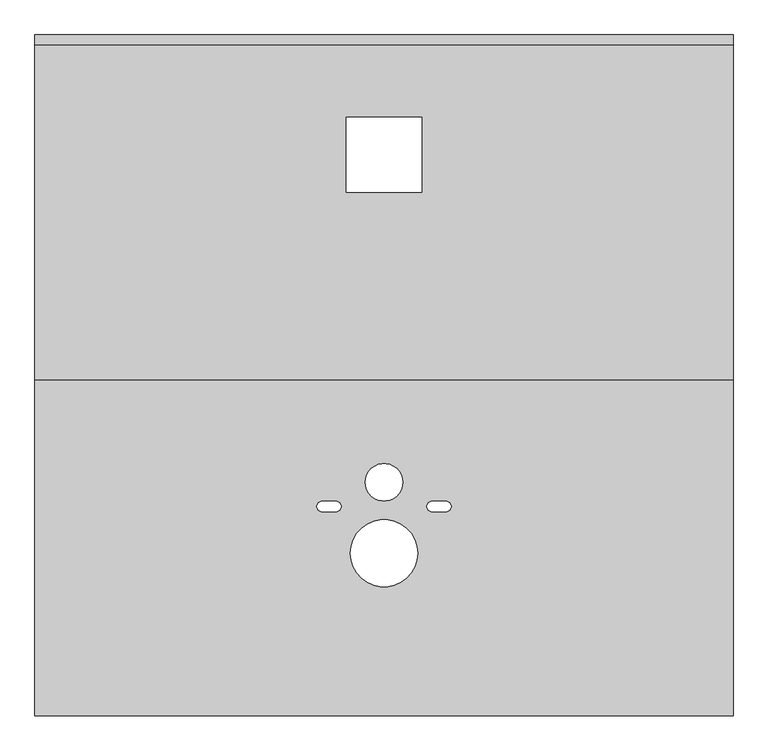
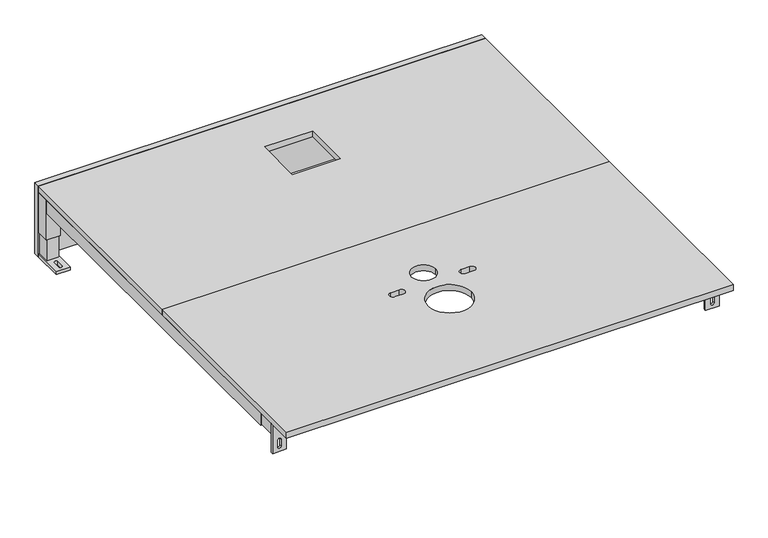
"""IFC4 building model written with IfcOpenShell, lengths in millimetres: sanitary terminal geometry, NLRS_74_PF_FB_afbouwpakket xs_wisa : xs afbouwpakket_wisa_afbouwpakket."""

import ifcopenshell
import ifcopenshell.guid

model = None  # the IFC model being written
_history = None  # IfcOwnerHistory: only IFC2X3 demands one
_inside = {}  # id of a spatial element -> (the spatial element, [elements in it])
_under = {}  # id of a project, library or spatial element -> (it, [spatial elements below it])
_declared = {}  # id of a project -> (the project, [libraries it declares])
_typed = {}  # id of a type object -> (the type object, [elements of that type])
_made_of = {}  # id of a material, layer set ... -> (it, [elements and type objects made of it])


def new_model(schema):
    """Start an empty IFC model of exactly this schema.

    Asked for "IFC4X3", IfcOpenShell would pick the latest addendum, in which some entities
    have other attributes; the version numbers below select the first issue.
    IFC2X3 requires an IfcOwnerHistory on every rooted entity: one is made here for all.
    """
    global model, _history
    if schema == "IFC4X3":
        model = ifcopenshell.file(schema_version=(4, 3, 0, 0))
    else:
        model = ifcopenshell.file(schema=schema)
    _inside.clear()
    _under.clear()
    _declared.clear()
    _typed.clear()
    _made_of.clear()
    _history = None
    if model.schema == "IFC2X3":
        org = make("IfcOrganization", Name="unknown")
        user = make(
            "IfcPersonAndOrganization",
            ThePerson=make("IfcPerson", FamilyName="unknown"),
            TheOrganization=org,
        )
        app = make(
            "IfcApplication",
            ApplicationDeveloper=org,
            Version="unknown",
            ApplicationFullName="unknown",
            ApplicationIdentifier="unknown",
        )
        _history = make(
            "IfcOwnerHistory",
            OwningUser=user,
            OwningApplication=app,
            ChangeAction="ADDED",
            CreationDate=0,
        )
    return model


def make(cls, **values):
    """One entity of the class cls with the attributes given. An attribute that is None is left unset."""
    return model.create_entity(
        cls, **{name: value for name, value in values.items() if value is not None}
    )


def rooted(cls, **values):
    """An entity with a GlobalId (a new one), such as an element, a storey or a relation."""
    return make(cls, GlobalId=ifcopenshell.guid.new(), OwnerHistory=_history, **values)


def si_unit(unit_type, name, prefix=None):
    """IfcSIUnit, for example si_unit("LENGTHUNIT", "METRE", prefix="MILLI")."""
    return make("IfcSIUnit", UnitType=unit_type, Prefix=prefix, Name=name)


def assignment(units):
    """IfcUnitAssignment: the units of a project."""
    return None if units is None else make("IfcUnitAssignment", Units=units)


def point(xyz):
    """IfcCartesianPoint."""
    return None if xyz is None else make("IfcCartesianPoint", Coordinates=xyz)


def direction(xyz):
    """IfcDirection."""
    return None if xyz is None else make("IfcDirection", DirectionRatios=xyz)


def frame(location, z_axis=None, x_axis=None):
    """IfcAxis2Placement3D, a coordinate frame: its origin and axes. An axis left out is left unset."""
    return make(
        "IfcAxis2Placement3D",
        Location=point(location),
        Axis=direction(z_axis),
        RefDirection=direction(x_axis),
    )


def frame_2d(location, x_axis=None):
    """IfcAxis2Placement2D, a coordinate frame in the plane: its origin and x axis."""
    return make(
        "IfcAxis2Placement2D", Location=point(location), RefDirection=direction(x_axis)
    )


def origin():
    """The frame at (0, 0, 0) with its axes left unset."""
    return frame((0.0, 0.0, 0.0))


def origin_with_axes():
    """The frame at (0, 0, 0) with the z axis (0, 0, 1) and the x axis (1, 0, 0) written out."""
    return frame((0.0, 0.0, 0.0), z_axis=(0.0, 0.0, 1.0), x_axis=(1.0, 0.0, 0.0))


def place(relative_to, where):
    """IfcLocalPlacement: puts the frame where relative to a parent placement (None: the world)."""
    return make(
        "IfcLocalPlacement", PlacementRelTo=relative_to, RelativePlacement=where
    )


def context(
    kind, dimensions, precision=None, world=None, true_north=None, identifier=None
):
    """IfcGeometricRepresentationContext, for example the 3D "Model" context."""
    return make(
        "IfcGeometricRepresentationContext",
        ContextIdentifier=identifier,
        ContextType=kind,
        CoordinateSpaceDimension=dimensions,
        Precision=precision,
        WorldCoordinateSystem=world,
        TrueNorth=true_north,
    )


def project(units=None, contexts=None):
    """IfcProject with its units and contexts."""
    return rooted(
        "IfcProject",
        Name="project",
        RepresentationContexts=contexts,
        UnitsInContext=assignment(units),
    )


def spatial(cls, under=None, at=None, **own):
    """A site, building, storey or space (cls), placed at a placement, below another one or the project."""
    s = rooted(cls, ObjectPlacement=at, **own)
    if under is not None:
        _under.setdefault(under.id(), (under, []))[1].append(s)
    return s


def polyline(points):
    """IfcPolyline through the points."""
    return make("IfcPolyline", Points=[point(p) for p in points])


def circle_curve(where, radius):
    """IfcCircle in the frame where."""
    return make("IfcCircle", Position=where, Radius=radius)


def trimmed(basis, trim1, trim2, sense, master):
    """IfcTrimmedCurve: the piece of a basis curve between two trims."""
    return make(
        "IfcTrimmedCurve",
        BasisCurve=basis,
        Trim1=trim1,
        Trim2=trim2,
        SenseAgreement=sense,
        MasterRepresentation=master,
    )


def segment(curve, same_sense, transition):
    """IfcCompositeCurveSegment."""
    return make(
        "IfcCompositeCurveSegment",
        Transition=transition,
        SameSense=same_sense,
        ParentCurve=curve,
    )


def composite_curve(segments, self_intersect=None):
    """IfcCompositeCurve: segments joined end to end."""
    return make("IfcCompositeCurve", Segments=segments, SelfIntersect=self_intersect)


def outline(outer, holes=None, kind="AREA"):
    """IfcArbitraryClosedProfileDef: a profile drawn as a closed curve; with holes, ...WithVoids."""
    if holes is None:
        return make("IfcArbitraryClosedProfileDef", ProfileType=kind, OuterCurve=outer)
    return make(
        "IfcArbitraryProfileDefWithVoids",
        ProfileType=kind,
        OuterCurve=outer,
        InnerCurves=holes,
    )


def extrude(swept, where, along, depth):
    """IfcExtrudedAreaSolid: the profile swept, set in the frame where, extruded along a direction by depth."""
    return make(
        "IfcExtrudedAreaSolid",
        SweptArea=swept,
        Position=where,
        ExtrudedDirection=direction(along),
        Depth=depth,
    )


def shape(context_of_items, identifier, shape_type, items):
    """IfcShapeRepresentation: the items that make up one representation, for example the "Body"."""
    return make(
        "IfcShapeRepresentation",
        ContextOfItems=context_of_items,
        RepresentationIdentifier=identifier,
        RepresentationType=shape_type,
        Items=items,
    )


def source(mapping_origin, context_of_items, identifier, shape_type, items):
    """IfcRepresentationMap: a shape defined once, which mapped items show again and again."""
    return make(
        "IfcRepresentationMap",
        MappingOrigin=mapping_origin,
        MappedRepresentation=shape(context_of_items, identifier, shape_type, items),
    )


def transform(
    local_origin,
    x_axis=None,
    y_axis=None,
    z_axis=None,
    scale=None,
    scale2=None,
    scale3=None,
    uniform=True,
):
    """IfcCartesianTransformationOperator3D, or its non-uniform kind. x_axis, y_axis, z_axis: its Axis1, 2, 3."""
    if uniform:
        return make(
            "IfcCartesianTransformationOperator3D",
            Axis1=direction(x_axis),
            Axis2=direction(y_axis),
            LocalOrigin=point(local_origin),
            Scale=scale,
            Axis3=direction(z_axis),
        )
    return make(
        "IfcCartesianTransformationOperator3DnonUniform",
        Axis1=direction(x_axis),
        Axis2=direction(y_axis),
        LocalOrigin=point(local_origin),
        Scale=scale,
        Axis3=direction(z_axis),
        Scale2=scale2,
        Scale3=scale3,
    )


def mapped(mapping_source, mapping_target):
    """IfcMappedItem: shows the shape of a source again, moved by a transform."""
    return make(
        "IfcMappedItem", MappingSource=mapping_source, MappingTarget=mapping_target
    )


def made_of(thing, what):
    """Note that an element or type object is made of a material, layer set ...; save() writes the relation."""
    if what is not None:
        _made_of.setdefault(what.id(), (what, []))[1].append(thing)
    return thing


def element(
    cls,
    number,
    at=None,
    inside=None,
    cuts=None,
    type_object=None,
    material=None,
    context=None,
    identifier="Body",
    shape_type=None,
    held_by="IfcProductDefinitionShape",
    body=None,
    shapes=None,
    **own,
):
    """One element of the class cls, such as IfcWall. Its Tag is "e" and its number.

    at: its placement. inside: the storey or other place that contains it. cuts: it is an
    opening in that element (IfcRelVoidsElement). A single representation is given by context,
    identifier, shape_type and body (its items); several are given by shapes. held_by: the class
    of the entity that holds the representations. save() writes the other relations.
    """
    e = rooted(cls, Tag="e%d" % number, ObjectPlacement=at, **own)
    if body is not None:
        shapes = [shape(context, identifier, shape_type, body)]
    if shapes is not None:
        e.Representation = make(held_by, Representations=shapes)
    if inside is not None:
        _inside.setdefault(inside.id(), (inside, []))[1].append(e)
    if cuts is not None:
        rooted(
            "IfcRelVoidsElement", RelatingBuildingElement=cuts, RelatedOpeningElement=e
        )
    if type_object is not None:
        _typed.setdefault(type_object.id(), (type_object, []))[1].append(e)
    return made_of(e, material)


def aggregate(whole, parts):
    """IfcRelAggregates: a whole, such as a stair, and the parts it consists of."""
    return rooted("IfcRelAggregates", RelatingObject=whole, RelatedObjects=parts)


def save(model, path):
    """Write the relations noted so far, then the file.

    IfcRelAggregates (storeys below a building ...), IfcRelContainedInSpatialStructure (elements
    in a storey), IfcRelDefinesByType, IfcRelAssociatesMaterial and IfcRelDeclares: one each for
    every whole, place, type object, material and project.
    """
    for whole, parts in _under.values():
        aggregate(whole, parts)
    for where, things in _inside.values():
        rooted(
            "IfcRelContainedInSpatialStructure",
            RelatedElements=things,
            RelatingStructure=where,
        )
    for kind, things in _typed.values():
        rooted("IfcRelDefinesByType", RelatedObjects=things, RelatingType=kind)
    for what, things in _made_of.values():
        rooted("IfcRelAssociatesMaterial", RelatedObjects=things, RelatingMaterial=what)
    for by, libraries in _declared.values():
        rooted("IfcRelDeclares", RelatingContext=by, RelatedDefinitions=libraries)
    model.write(path)


def sanitary_terminal_559524cd(model_context):
    return source(origin(), model_context, "Body", "SweptSolid", [
        extrude(outline(polyline([(650.0, 1180.0), (650.0, 1140.0), (610.0, 1140.0), (610.0, 1180.0), (650.0, 1180.0)])), frame((0.0, 0.0, 77.0), z_axis=(0.0, 0.0, 1.0), x_axis=(1.0, 0.0, 0.0)), (0.0, 0.0, 1.0), 123.0),
        extrude(outline(polyline([(-610.0, 1180.0), (-610.0, 1140.0), (-650.0, 1140.0), (-650.0, 1180.0), (-610.0, 1180.0)])), frame((0.0, 0.0, 77.0), z_axis=(0.0, 0.0, 1.0), x_axis=(1.0, 0.0, 0.0)), (0.0, 0.0, 1.0), 123.0),
        extrude(outline(polyline([(650.0, 1180.0), (-650.0, 1180.0), (-650.0, 1198.0), (650.0, 1198.0), (650.0, 1180.0)])), origin_with_axes(), (0.0, 0.0, 1.0), 218.0),
        extrude(outline(polyline([(650.0, 555.0), (650.0, -70.0), (-650.0, -70.0), (-650.0, 555.0), (650.0, 555.0)]), holes=[composite_curve([segment(trimmed(circle_curve(frame_2d((0.0, 233.0)), 62.5), [point((62.5, 233.0))], [point((-62.5, 233.0))], True, "CARTESIAN"), True, "CONTINUOUS"), segment(trimmed(circle_curve(frame_2d((0.0, 233.0)), 62.5), [point((-62.5, 233.0))], [point((62.5, 233.0))], True, "CARTESIAN"), True, "CONTINUOUS")], self_intersect=False), composite_curve([segment(trimmed(circle_curve(frame_2d((0.0, 365.0)), 35.0), [point((35.0, 365.0))], [point((-35.0, 365.0))], True, "CARTESIAN"), True, "CONTINUOUS"), segment(trimmed(circle_curve(frame_2d((0.0, 365.0)), 35.0), [point((-35.0, 365.0))], [point((35.0, 365.0))], True, "CARTESIAN"), True, "CONTINUOUS")], self_intersect=False), composite_curve([segment(trimmed(circle_curve(frame_2d((115.0, 320.0)), 10.0), [point((115.0, 310.0))], [point((115.0, 330.0))], True, "CARTESIAN"), True, "CONTINUOUS"), segment(polyline([(115.0, 330.0), (90.0, 330.0)]), True, "CONTINUOUS"), segment(trimmed(circle_curve(frame_2d((90.0, 320.0)), 10.0), [point((90.0, 330.0))], [point((90.0, 310.0))], True, "CARTESIAN"), True, "CONTINUOUS"), segment(polyline([(90.0, 310.0), (115.0, 310.0)]), True, "CONTINUOUS")], self_intersect=False), composite_curve([segment(polyline([(-115.0, 310.0), (-90.0, 310.0)]), True, "CONTINUOUS"), segment(trimmed(circle_curve(frame_2d((-90.0, 320.0)), 10.0), [point((-90.0, 310.0))], [point((-90.0, 330.0))], True, "CARTESIAN"), True, "CONTINUOUS"), segment(polyline([(-90.0, 330.0), (-115.0, 330.0)]), True, "CONTINUOUS"), segment(trimmed(circle_curve(frame_2d((-115.0, 320.0)), 10.0), [point((-115.0, 330.0))], [point((-115.0, 310.0))], True, "CARTESIAN"), True, "CONTINUOUS")], self_intersect=False)]), frame((0.0, 0.0, 200.0), z_axis=(0.0, 0.0, 1.0), x_axis=(1.0, 0.0, 0.0)), (0.0, 0.0, 1.0), 18.0),
        extrude(outline(polyline([(650.0, 1180.0), (650.0, 555.0), (-650.0, 555.0), (-650.0, 1180.0), (650.0, 1180.0)]), holes=[polyline([(70.0, 1045.0), (-70.0, 1045.0), (-70.0, 905.0), (70.0, 905.0), (70.0, 1045.0)])]), frame((0.0, 0.0, 200.0), z_axis=(0.0, 0.0, 1.0), x_axis=(1.0, 0.0, 0.0)), (0.0, 0.0, 1.0), 18.0),
        extrude(outline(polyline([(647.5, 1177.5), (647.5, 1142.5), (612.0691791, 1142.5), (612.0691791, 1177.5), (647.5, 1177.5)])), frame((0.0, 0.0, 10.0), z_axis=(0.0, 0.0, 1.0), x_axis=(1.0, 0.0, 0.0)), (0.0, 0.0, 1.0), 150.0),
        extrude(outline(polyline([(-612.5, 1177.5), (-612.5, 1142.5), (-647.5, 1142.5), (-647.5, 1177.5), (-612.5, 1177.5)])), frame((0.0, 0.0, 10.0), z_axis=(0.0, 0.0, 1.0), x_axis=(1.0, 0.0, 0.0)), (0.0, 0.0, 1.0), 150.0),
        extrude(outline(polyline([(650.0, 1180.0), (650.0, 1090.0), (610.0, 1090.0), (610.0, 1180.0), (650.0, 1180.0)]), holes=[composite_curve([segment(polyline([(625.0, 1125.0), (625.0, 1105.0)]), True, "CONTINUOUS"), segment(trimmed(circle_curve(frame_2d((630.0, 1105.0)), 5.0), [point((625.0, 1105.0))], [point((635.0, 1105.0))], True, "CARTESIAN"), True, "CONTINUOUS"), segment(polyline([(635.0, 1105.0), (635.0, 1125.0)]), True, "CONTINUOUS"), segment(trimmed(circle_curve(frame_2d((630.0, 1125.0)), 5.0), [point((635.0, 1125.0))], [point((625.0, 1125.0))], True, "CARTESIAN"), True, "CONTINUOUS")], self_intersect=False)]), origin_with_axes(), (0.0, 0.0, 1.0), 10.0),
        extrude(outline(polyline([(-650.0, 1180.0), (-610.0, 1180.0), (-610.0, 1090.0), (-650.0, 1090.0), (-650.0, 1180.0)]), holes=[composite_curve([segment(trimmed(circle_curve(frame_2d((-630.0, 1125.0)), 5.0), [point((-625.0, 1125.0))], [point((-635.0, 1125.0))], True, "CARTESIAN"), True, "CONTINUOUS"), segment(polyline([(-635.0, 1125.0), (-635.0, 1105.0)]), True, "CONTINUOUS"), segment(trimmed(circle_curve(frame_2d((-630.0, 1105.0)), 5.0), [point((-635.0, 1105.0))], [point((-625.0, 1105.0))], True, "CARTESIAN"), True, "CONTINUOUS"), segment(polyline([(-625.0, 1105.0), (-625.0, 1125.0)]), True, "CONTINUOUS")], self_intersect=False)]), origin_with_axes(), (0.0, 0.0, 1.0), 10.0),
        extrude(outline(polyline([(-647.5, 549.0), (-612.5, 549.0), (-612.5, 6.0), (-647.5, 6.0), (-647.5, 549.0)])), frame((0.0, 0.0, 162.5), z_axis=(0.0, 0.0, 1.0), x_axis=(1.0, 0.0, 0.0)), (0.0, 0.0, 1.0), 35.0),
        extrude(outline(polyline([(612.4841074, 549.0), (647.4841074, 549.0), (647.4841074, 6.0), (612.4841074, 6.0), (612.4841074, 549.0)])), frame((0.0, 0.0, 162.5), z_axis=(0.0, 0.0, 1.0), x_axis=(1.0, 0.0, 0.0)), (0.0, 0.0, 1.0), 35.0),
        extrude(outline(polyline([(200.0, 650.0), (200.0, 610.0), (110.0, 610.0), (110.0, 650.0), (200.0, 650.0)]), holes=[composite_curve([segment(trimmed(circle_curve(frame_2d((145.0, 630.0)), 5.0), [point((145.0, 625.0))], [point((145.0, 635.0))], True, "CARTESIAN"), True, "CONTINUOUS"), segment(polyline([(145.0, 635.0), (125.0, 635.0)]), True, "CONTINUOUS"), segment(trimmed(circle_curve(frame_2d((125.0, 630.0)), 5.0), [point((125.0, 635.0))], [point((125.0, 625.0))], True, "CARTESIAN"), True, "CONTINUOUS"), segment(polyline([(125.0, 625.0), (145.0, 625.0)]), True, "CONTINUOUS")], self_intersect=False)]), frame((0.0, 0.0, 0.0), z_axis=(0.0, 1.0, 0.0), x_axis=(0.0, 0.0, 1.0)), (0.0, 0.0, 1.0), 6.0),
        extrude(outline(polyline([(200.0, -610.0), (200.0, -650.0), (110.0, -650.0), (110.0, -610.0), (200.0, -610.0)]), holes=[composite_curve([segment(trimmed(circle_curve(frame_2d((145.0, -630.0)), 5.0), [point((145.0, -635.0))], [point((145.0, -625.0))], True, "CARTESIAN"), True, "CONTINUOUS"), segment(polyline([(145.0, -625.0), (125.0, -625.0)]), True, "CONTINUOUS"), segment(trimmed(circle_curve(frame_2d((125.0, -630.0)), 5.0), [point((125.0, -625.0))], [point((125.0, -635.0))], True, "CARTESIAN"), True, "CONTINUOUS"), segment(polyline([(125.0, -635.0), (145.0, -635.0)]), True, "CONTINUOUS")], self_intersect=False)]), frame((0.0, 0.0, 0.0), z_axis=(0.0, 1.0, 0.0), x_axis=(0.0, 0.0, 1.0)), (0.0, 0.0, 1.0), 6.0),
        extrude(outline(polyline([(-610.0, 60.0), (-650.0, 60.0), (-650.0, 1140.0), (-610.0, 1140.0), (-610.0, 60.0)])), frame((0.0, 0.0, 160.0), z_axis=(0.0, 0.0, 1.0), x_axis=(1.0, 0.0, 0.0)), (0.0, 0.0, 1.0), 40.0),
        extrude(outline(polyline([(650.0, 60.0), (610.0, 60.0), (610.0, 1140.0), (650.0, 1140.0), (650.0, 60.0)])), frame((0.0, 0.0, 160.0), z_axis=(0.0, 0.0, 1.0), x_axis=(1.0, 0.0, 0.0)), (0.0, 0.0, 1.0), 40.0),
    ])


if __name__ == "__main__":
    model = new_model("IFC4")
    model_context = context("Model", 3, world=origin())
    ifc_project = project(units=[si_unit("LENGTHUNIT", "METRE", prefix="MILLI")], contexts=[model_context])
    site = spatial("IfcSite", under=ifc_project)
    building = spatial("IfcBuilding", under=site)
    placement = place(None, origin())
    sanitary_terminal_shape = sanitary_terminal_559524cd(model_context)
    element("IfcSanitaryTerminal", 1, ObjectType="NLRS_74_PF_FB_afbouwpakket xs_wisa : xs afbouwpakket_wisa_afbouwpakket", at=placement, inside=building, context=model_context, shape_type="MappedRepresentation", body=[
        mapped(sanitary_terminal_shape, transform((0.0, 0.0, 0.0), x_axis=(1.0, 0.0, 0.0), y_axis=(0.0, 1.0, 0.0), z_axis=(0.0, 0.0, 1.0))),
    ])
    save(model, "model.ifc")
